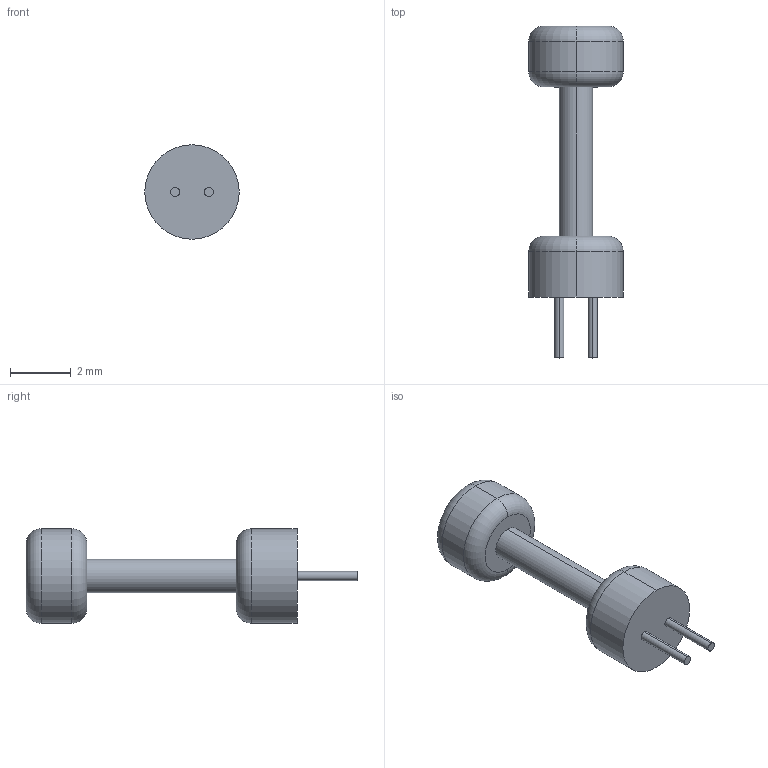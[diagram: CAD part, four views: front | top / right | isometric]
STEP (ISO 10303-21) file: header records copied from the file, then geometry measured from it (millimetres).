
FILE_DESCRIPTION (( 'STEP AP214' ), '1' );
FILE_NAME ( 'INDRD110W30D310H890.STEP', '2021-10-06T06:49:14', ( '' ), ( '' ), '', '©2017 PCB Libraries, Inc.', '' );
FILE_SCHEMA (( 'AUTOMOTIVE_DESIGN' ));
Length unit declared in the file: millimetre
Products named in the file (1): INDRD110W30D310H890
Bounding box: 3.1 x 10.9 x 3.1 mm (x, y, z)
Volume: 33.7 mm3; surface area: 81.6 mm2
Topology: 3 solids, 3 shells, 24 faces, 42 edges, 26 vertices
Faces by surface type: cylinder 10, plane 8, torus 6
Entity records: 710 total; most frequent: DIRECTION 124, CARTESIAN_POINT 93, ORIENTED_EDGE 84, AXIS2_PLACEMENT_3D 57, EDGE_CURVE 42, CIRCLE 32, STYLED_ITEM 28, PRESENTATION_LAYER_ASSIGNMENT 28
